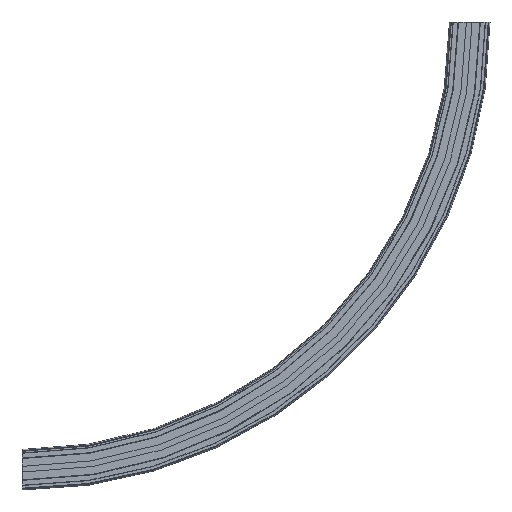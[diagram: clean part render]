
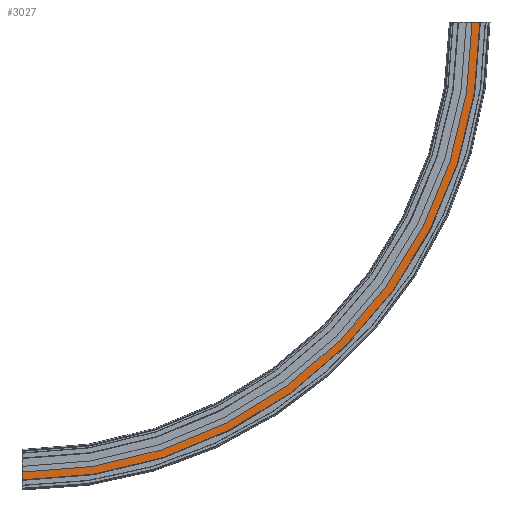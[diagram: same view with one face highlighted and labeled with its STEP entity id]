
A CAD part, front view. The second image highlights one B-rep face of the part: STEP entity #3027.
In plain terms, the highlighted planar face has unit normal (0, -1, 0).
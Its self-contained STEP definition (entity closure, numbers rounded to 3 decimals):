
#2969=CARTESIAN_POINT('',(880.5,-32.,822.));
#2970=VERTEX_POINT('',#2969);
#2977=CARTESIAN_POINT('',(0.0,-32.,-58.5));
#2978=VERTEX_POINT('',#2977);
#2979=CARTESIAN_POINT('',(0.,-32.,822.0));
#2980=DIRECTION('',(0.0,-1.0,0.0));
#2981=DIRECTION('',(-1.0,0.0,0.0));
#2982=AXIS2_PLACEMENT_3D('',#2979,#2980,#2981);
#2983=CIRCLE('',#2982,880.5);
#2984=EDGE_CURVE('',#2978,#2970,#2983,.T.);
#2996=CARTESIAN_POINT('',(0.0,-32.,-51.));
#2997=DIRECTION('',(0.0,-1.0,0.0));
#2998=DIRECTION('',(0.0,0.0,-1.0));
#2999=AXIS2_PLACEMENT_3D('',#2996,#2997,#2998);
#3000=PLANE('',#2999);
#3001=CARTESIAN_POINT('',(865.5,-32.,822.));
#3002=VERTEX_POINT('',#3001);
#3003=CARTESIAN_POINT('',(880.5,-32.,822.));
#3004=DIRECTION('',(-1.0,0.0,0.0));
#3005=VECTOR('',#3004,15.0);
#3006=LINE('',#3003,#3005);
#3007=EDGE_CURVE('',#2970,#3002,#3006,.T.);
#3008=ORIENTED_EDGE('',*,*,#3007,.T.);
#3009=CARTESIAN_POINT('',(0.0,-32.,-43.5));
#3010=VERTEX_POINT('',#3009);
#3011=CARTESIAN_POINT('',(0.,-32.,822.0));
#3012=DIRECTION('',(0.0,-1.0,0.0));
#3013=DIRECTION('',(-1.0,0.0,0.0));
#3014=AXIS2_PLACEMENT_3D('',#3011,#3012,#3013);
#3015=CIRCLE('',#3014,865.5);
#3016=EDGE_CURVE('',#3010,#3002,#3015,.T.);
#3017=ORIENTED_EDGE('',*,*,#3016,.F.);
#3018=CARTESIAN_POINT('',(0.0,-32.,-43.5));
#3019=DIRECTION('',(0.0,0.0,-1.0));
#3020=VECTOR('',#3019,15.);
#3021=LINE('',#3018,#3020);
#3022=EDGE_CURVE('',#3010,#2978,#3021,.T.);
#3023=ORIENTED_EDGE('',*,*,#3022,.T.);
#3024=ORIENTED_EDGE('',*,*,#2984,.T.);
#3025=EDGE_LOOP('',(#3008,#3017,#3023,#3024));
#3026=FACE_OUTER_BOUND('',#3025,.T.);
#3027=ADVANCED_FACE('',(#3026),#3000,.T.);
